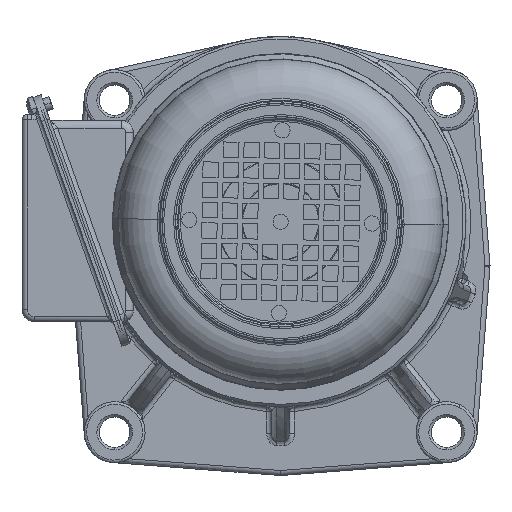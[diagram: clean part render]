
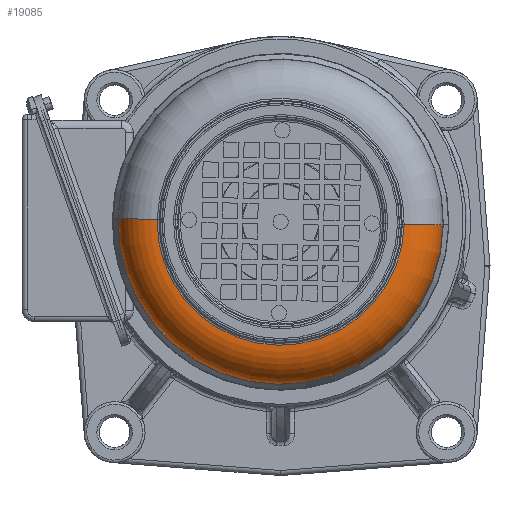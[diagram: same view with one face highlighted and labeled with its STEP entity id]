
A CAD part, front view. The second image highlights one B-rep face of the part: STEP entity #19085.
In plain terms, the highlighted toroidal (fillet/blend) face has major radius 48.673 mm and minor radius 15.331 mm.
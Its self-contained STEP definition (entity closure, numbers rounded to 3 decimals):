
#663 = CARTESIAN_POINT ( 'NONE',  ( -15.325, 0., 48.673 ) ) ;
#1091 = CIRCLE ( 'NONE', #7048, 15.331 ) ;
#7048 = AXIS2_PLACEMENT_3D ( 'NONE', #663, #14767, #28926 ) ;
#7574 = DIRECTION ( 'NONE',  ( 0., 0., 1. ) ) ;
#8156 = DIRECTION ( 'NONE',  ( 0., 1., 0. ) ) ;
#8761 = ORIENTED_EDGE ( 'NONE', *, *, #43097, .T. ) ;
#9060 = VERTEX_POINT ( 'NONE', #22151 ) ;
#9175 = CIRCLE ( 'NONE', #35103, 15.331 ) ;
#11403 = TOROIDAL_SURFACE ( 'NONE', #37306, 48.673, 15.331 ) ;
#13339 = DIRECTION ( 'NONE',  ( 0., 0., 1. ) ) ;
#14767 = DIRECTION ( 'NONE',  ( 0., -1., 0. ) ) ;
#14869 = CIRCLE ( 'NONE', #40768, 64. ) ;
#15052 = CIRCLE ( 'NONE', #20989, 48.659 ) ;
#17471 = CARTESIAN_POINT ( 'NONE',  ( 0.006, 0., 0. ) ) ;
#18924 = EDGE_LOOP ( 'NONE', ( #28674, #8761, #37415, #29531 ) ) ;
#18999 = CARTESIAN_POINT ( 'NONE',  ( 0.006, 0., -48.659 ) ) ;
#19085 = ADVANCED_FACE ( 'NONE', ( #28635 ), #11403, .T. ) ;
#19742 = EDGE_CURVE ( 'NONE', #9060, #35270, #1091, .T. ) ;
#20989 = AXIS2_PLACEMENT_3D ( 'NONE', #17471, #31640, #45764 ) ;
#22151 = CARTESIAN_POINT ( 'NONE',  ( 0.006, 0., 48.659 ) ) ;
#22265 = DIRECTION ( 'NONE',  ( 0., 0., 1. ) ) ;
#25005 = CARTESIAN_POINT ( 'NONE',  ( -15., 0., -64. ) ) ;
#25142 = CARTESIAN_POINT ( 'NONE',  ( -15.325, 0., 0. ) ) ;
#28635 = FACE_OUTER_BOUND ( 'NONE', #18924, .T. ) ;
#28674 = ORIENTED_EDGE ( 'NONE', *, *, #43591, .F. ) ;
#28926 = DIRECTION ( 'NONE',  ( 0., 0., -1. ) ) ;
#29305 = VERTEX_POINT ( 'NONE', #25005 ) ;
#29531 = ORIENTED_EDGE ( 'NONE', *, *, #40821, .F. ) ;
#30977 = CARTESIAN_POINT ( 'NONE',  ( -15., 0., 0. ) ) ;
#31640 = DIRECTION ( 'NONE',  ( -1., 0., 0. ) ) ;
#35103 = AXIS2_PLACEMENT_3D ( 'NONE', #39886, #8156, #22265 ) ;
#35270 = VERTEX_POINT ( 'NONE', #44803 ) ;
#37306 = AXIS2_PLACEMENT_3D ( 'NONE', #25142, #39293, #7574 ) ;
#37415 = ORIENTED_EDGE ( 'NONE', *, *, #19742, .T. ) ;
#39293 = DIRECTION ( 'NONE',  ( -1., 0., 0. ) ) ;
#39886 = CARTESIAN_POINT ( 'NONE',  ( -15.325, 0., -48.673 ) ) ;
#40768 = AXIS2_PLACEMENT_3D ( 'NONE', #30977, #45100, #13339 ) ;
#40821 = EDGE_CURVE ( 'NONE', #29305, #35270, #14869, .T. ) ;
#43097 = EDGE_CURVE ( 'NONE', #45480, #9060, #15052, .T. ) ;
#43591 = EDGE_CURVE ( 'NONE', #45480, #29305, #9175, .T. ) ;
#44803 = CARTESIAN_POINT ( 'NONE',  ( -15., 0., 64. ) ) ;
#45100 = DIRECTION ( 'NONE',  ( -1., 0., 0. ) ) ;
#45480 = VERTEX_POINT ( 'NONE', #18999 ) ;
#45764 = DIRECTION ( 'NONE',  ( 0., 0., 1. ) ) ;
